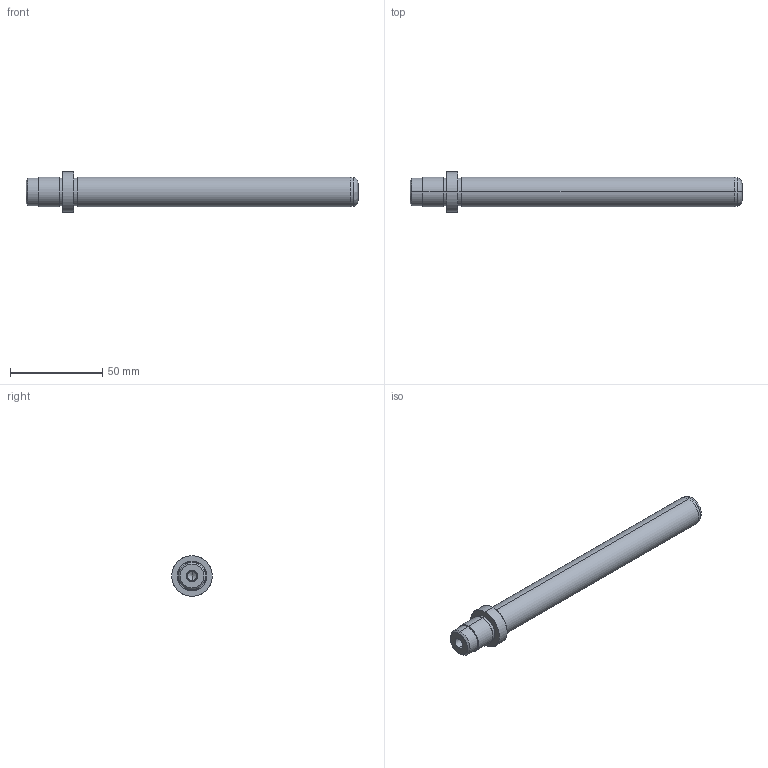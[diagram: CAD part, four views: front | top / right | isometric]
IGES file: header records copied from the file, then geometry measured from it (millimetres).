
Start section: SolidWorks IGES FILE using analytic representation for surfaces
Global section: file name: D:\zzzzz\Delta\D06\16\D06 - 16x160x20.IGS; native system: SolidWorks 2004 by SolidWorks Corporation; preprocessor: Version 5.3; author: Hkn; date: 080327.150104; units: millimetre
Bounding box: 180 x 22 x 22 mm (x, y, z)
Surface area: 10765.5 mm2 (no closed solid volume)
Topology: 0 solids, 0 shells, 39 faces, 696 edges, 692 vertices
Faces by surface type: revolution 28, bspline 11
